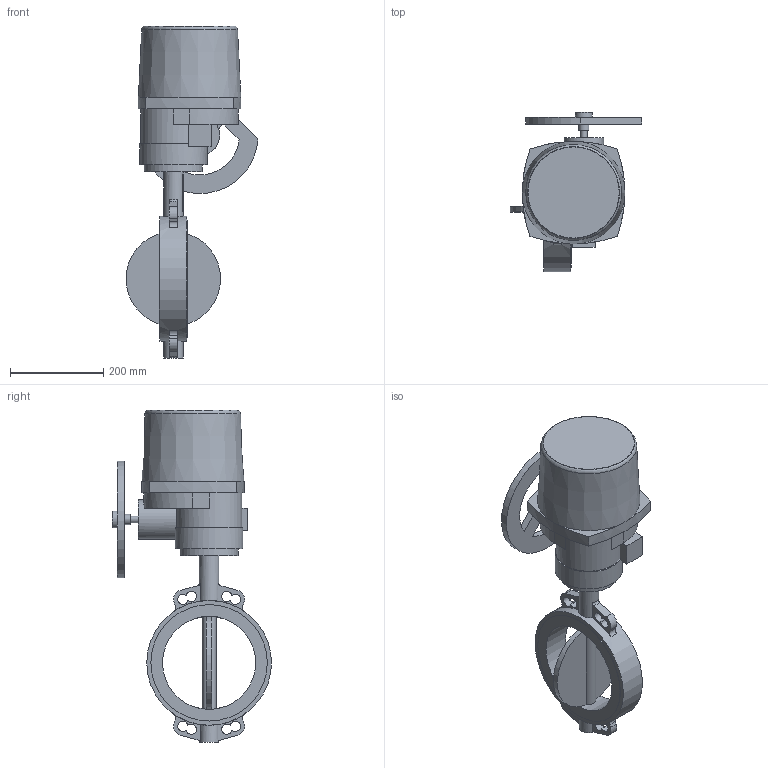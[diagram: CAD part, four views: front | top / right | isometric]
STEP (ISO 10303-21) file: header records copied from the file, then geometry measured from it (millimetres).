
FILE_DESCRIPTION(('STEP AP203'), '1');
FILE_NAME('青蜮铕 015WDN200+菹 QT30-1', '', ('UNSPECIFIED'), ('UNSPECIFIED'), 'ASCON STEP Converter 1.6', 'ASCON Math Kernel', '');
FILE_SCHEMA(('CONFIG_CONTROL_DESIGN'));
Length unit declared in the file: millimetre
Bounding box: 283.28 x 341.5 x 713 mm (x, y, z)
Volume: 10142082.1 mm3; surface area: 654149.6 mm2
Topology: 1 solids, 2 shells, 721 faces, 2094 edges, 1348 vertices
Faces by surface type: cylinder 505, plane 207, bspline 6, torus 2, cone 1
Full cylindrical faces by diameter (mm): 10 x4, 12 x4, 14 x1, 22 x1, 22.1 x1, 36 x1, 42 x2, 70 x1, 85 x1, 125 x1, 145 x1, 200 x1, 250 x2, 268 x1
Entity records: 31628 total; most frequent: CARTESIAN_POINT 5941, DIRECTION 4539, ORIENTED_EDGE 4069, EDGE_CURVE 2066, AXIS2_PLACEMENT_3D 1797, VERTEX_POINT 1346, CIRCLE 1081, LINE 945
